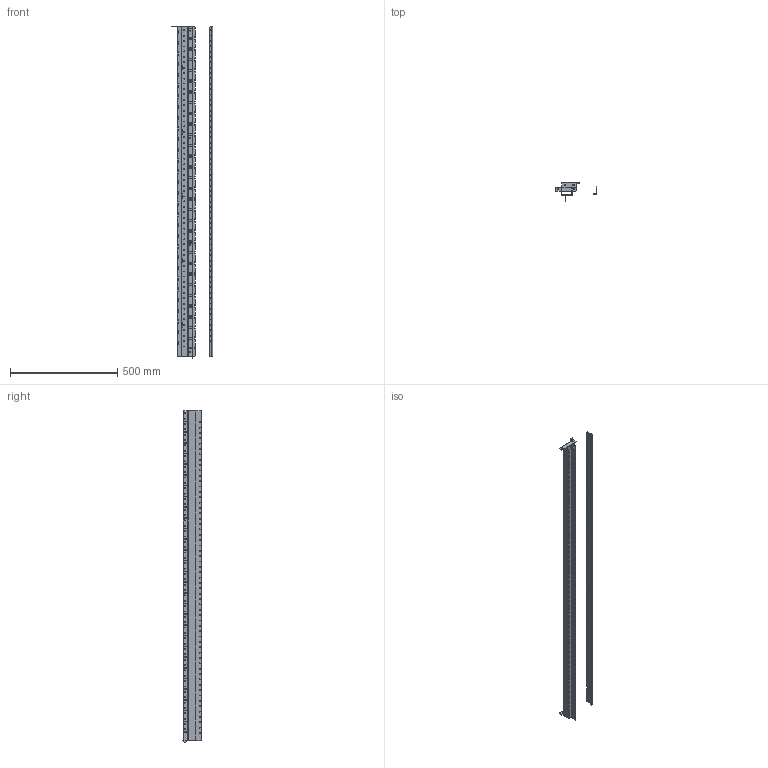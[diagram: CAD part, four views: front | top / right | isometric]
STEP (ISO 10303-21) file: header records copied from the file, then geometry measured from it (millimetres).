
FILE_DESCRIPTION(('CAx-IF Rec.Pracs.---Model Styling and Organization---1.2---2011-12-15','CAx-IF Rec.Pracs.---Geometric and Assembly Validation Properties---4.1---2014-06-16','CAx-IF Rec.Pracs.---PMI Polyline Presentation---2.0---2013-05-24'),'2;1');
FILE_NAME('R5M2ACRS30M6.stp','2021-05-05T11:59:52+03:00',(''),(''),'STEP Interface 4.4 by CT CoreTechnologie','3D_Evolution4.4 by CT CoreTechnologie','');
FILE_SCHEMA(('AUTOMOTIVE_DESIGN { 1 0 10303 214 1 1 1 1 }'));
Length unit declared in the file: millimetre
Products named in the file (6): R5M2ACRS30M6; RB.1271.00.00.0 ÑÁ_-00; RB.1271.00.01.0_-00; RB.1271.00.02.0_-00; M5x8-DIN7500C_stright; RB.1397.00.00.0_- 00 (KODIROVKA)
Assembly tree (8 placements, depth 3):
  R5M2ACRS30M6
    RB.1271.00.00.0 ÑÁ_-00
      RB.1271.00.01.0_-00
      RB.1271.00.02.0_-00
      M5x8-DIN7500C_stright  x4
    RB.1397.00.00.0_- 00 (KODIROVKA)
Bounding box: 191.6 x 92 x 1549 mm (x, y, z)
Surface area: 989494.9 mm2 (no closed solid volume)
Topology: 0 solids, 7 shells, 1524 faces, 4685 edges, 3105 vertices
Faces by surface type: plane 874, cylinder 648, bspline 2
Entity records: 54094 total; most frequent: CARTESIAN_POINT 9357, ORIENTED_EDGE 9334, DIRECTION 8987, EDGE_CURVE 4667, VECTOR 3381, LINE 3381, VERTEX_POINT 3093, AXIS2_PLACEMENT_3D 2803
